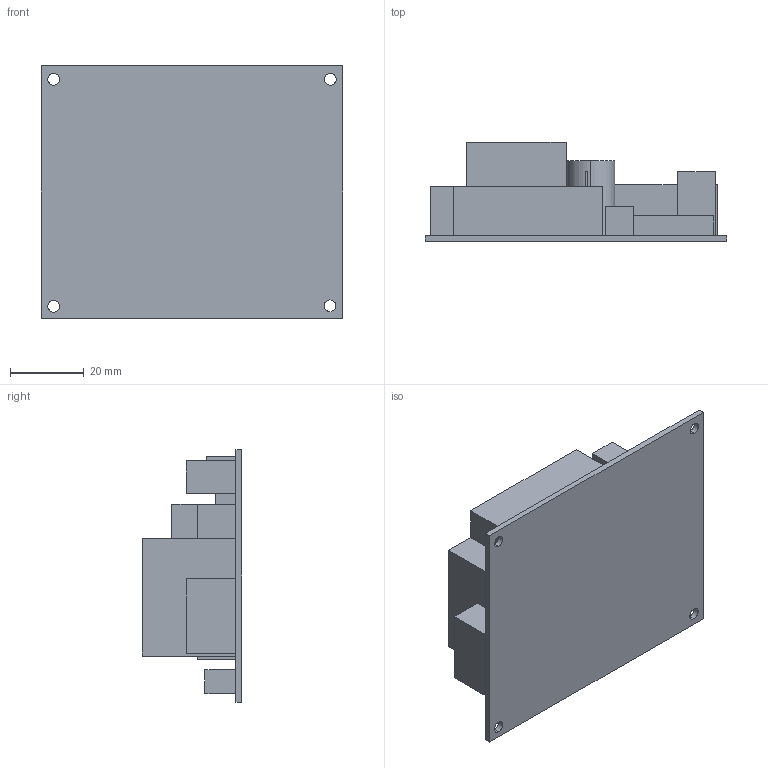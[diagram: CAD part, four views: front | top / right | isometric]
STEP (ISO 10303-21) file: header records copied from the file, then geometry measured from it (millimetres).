
FILE_DESCRIPTION (( 'STEP AP214' ), '1' );
FILE_NAME ('Softstart V2.STEP', '2016-07-28T14:19:27', ( '' ), ( '' ), 'SwSTEP 2.0', 'SolidWorks 2014', '' );
FILE_SCHEMA (( 'AUTOMOTIVE_DESIGN' ));
Length unit declared in the file: millimetre
Products named in the file (2): Softstart V2; PCB Softstart V2
Assembly tree (1 placements, depth 2):
  Softstart V2
    PCB Softstart V2
Bounding box: 81.92 x 27 x 68.58 mm (x, y, z)
Volume: 51531.7 mm3; surface area: 22340.7 mm2
Topology: 1 solids, 1 shells, 128 faces, 314 edges, 209 vertices
Faces by surface type: plane 116, cylinder 12
Entity records: 5039 total; most frequent: CARTESIAN_POINT 655, ORIENTED_EDGE 628, DIRECTION 602, EDGE_CURVE 314, LINE 290, VECTOR 290, VERTEX_POINT 209, EDGE_LOOP 157
